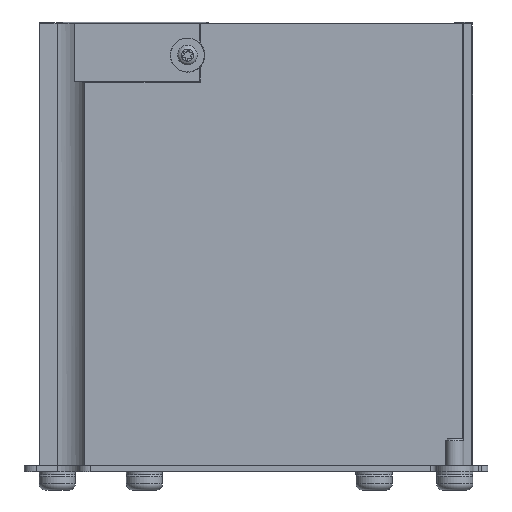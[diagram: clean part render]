
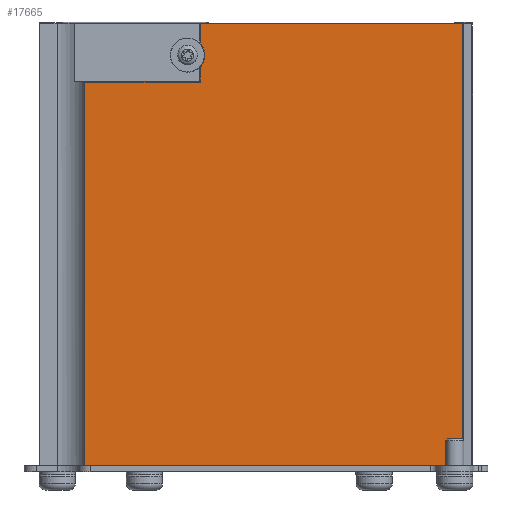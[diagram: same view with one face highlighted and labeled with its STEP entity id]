
A CAD part, front view. The second image highlights one B-rep face of the part: STEP entity #17665.
In plain terms, the highlighted planar face has unit normal (0, -1, 0).
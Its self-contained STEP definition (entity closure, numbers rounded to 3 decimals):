
#928=CIRCLE('',#18560,2.925);
#1787=FACE_OUTER_BOUND('',#2758,.T.);
#2758=EDGE_LOOP('',(#14816,#14817,#14818,#14819,#14820,#14821,#14822,#14823));
#4507=LINE('',#29273,#6310);
#4516=LINE('',#29293,#6319);
#4520=LINE('',#29304,#6323);
#4548=LINE('',#29368,#6351);
#4549=LINE('',#29372,#6352);
#4550=LINE('',#29373,#6353);
#4551=LINE('',#29374,#6354);
#6310=VECTOR('',#21878,1.);
#6319=VECTOR('',#21895,1.);
#6323=VECTOR('',#21903,1.);
#6351=VECTOR('',#21965,1.);
#6352=VECTOR('',#21970,1.);
#6353=VECTOR('',#21971,10.);
#6354=VECTOR('',#21972,1.);
#7944=VERTEX_POINT('',#29271);
#7945=VERTEX_POINT('',#29272);
#7951=VERTEX_POINT('',#29290);
#7952=VERTEX_POINT('',#29292);
#7956=VERTEX_POINT('',#29301);
#7957=VERTEX_POINT('',#29303);
#7976=VERTEX_POINT('',#29366);
#7977=VERTEX_POINT('',#29371);
#10274=EDGE_CURVE('',#7944,#7945,#4507,.T.);
#10284=EDGE_CURVE('',#7952,#7951,#4516,.T.);
#10289=EDGE_CURVE('',#7957,#7956,#4520,.T.);
#10320=EDGE_CURVE('',#7976,#7957,#4548,.T.);
#10321=EDGE_CURVE('',#7951,#7976,#928,.T.);
#10322=EDGE_CURVE('',#7977,#7956,#4549,.T.);
#10323=EDGE_CURVE('',#7944,#7977,#4550,.T.);
#10324=EDGE_CURVE('',#7945,#7952,#4551,.T.);
#14816=ORIENTED_EDGE('',*,*,#10321,.T.);
#14817=ORIENTED_EDGE('',*,*,#10320,.T.);
#14818=ORIENTED_EDGE('',*,*,#10289,.T.);
#14819=ORIENTED_EDGE('',*,*,#10322,.F.);
#14820=ORIENTED_EDGE('',*,*,#10323,.F.);
#14821=ORIENTED_EDGE('',*,*,#10274,.T.);
#14822=ORIENTED_EDGE('',*,*,#10324,.T.);
#14823=ORIENTED_EDGE('',*,*,#10284,.T.);
#15890=PLANE('',#18559);
#17665=ADVANCED_FACE('',(#1787),#15890,.T.);
#18559=AXIS2_PLACEMENT_3D('',#29369,#21966,#21967);
#18560=AXIS2_PLACEMENT_3D('',#29370,#21968,#21969);
#21878=DIRECTION('',(0.,0.,1.));
#21895=DIRECTION('',(0.,0.,-1.));
#21903=DIRECTION('',(-1.,0.,0.));
#21965=DIRECTION('',(0.,0.,-1.));
#21966=DIRECTION('center_axis',(0.,-1.,0.));
#21967=DIRECTION('ref_axis',(0.,0.,
1.));
#21968=DIRECTION('center_axis',(0.,1.,0.));
#21969=DIRECTION('ref_axis',(-1.,0.,0.));
#21970=DIRECTION('',(0.,0.,1.));
#21971=DIRECTION('',(-1.,0.,0.));
#21972=DIRECTION('',(-1.,0.,0.));
#29271=CARTESIAN_POINT('',(67.315,-28.003,1.));
#29272=CARTESIAN_POINT('',(67.315,-28.003,74.399));
#29273=CARTESIAN_POINT('',(67.315,-28.003,1.));
#29290=CARTESIAN_POINT('',(23.715,-28.003,71.236));
#29292=CARTESIAN_POINT('',(23.715,-28.003,74.399));
#29293=CARTESIAN_POINT('',(23.715,-28.003,37.85));
#29301=CARTESIAN_POINT('',(4.597,-28.003,64.7));
#29303=CARTESIAN_POINT('',(23.715,-28.003,64.7));
#29304=CARTESIAN_POINT('',(40.304,-28.003,64.7));
#29366=CARTESIAN_POINT('',(23.715,-28.003,67.164));
#29368=CARTESIAN_POINT('',(23.715,-28.003,37.85));
#29369=CARTESIAN_POINT('Origin',(67.315,-28.003,1.));
#29370=CARTESIAN_POINT('Origin',(21.615,-28.003,69.2));
#29371=CARTESIAN_POINT('',(4.597,-28.003,1.));
#29372=CARTESIAN_POINT('',(4.597,-28.003,1.));
#29373=CARTESIAN_POINT('',(50.368,-28.003,1.));
#29374=CARTESIAN_POINT('',(50.204,-28.003,74.399));
